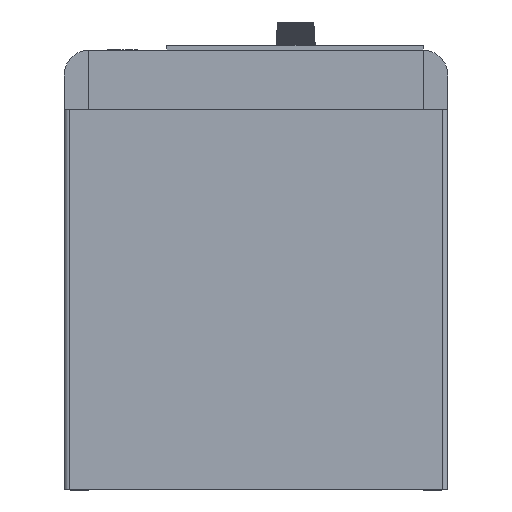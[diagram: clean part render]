
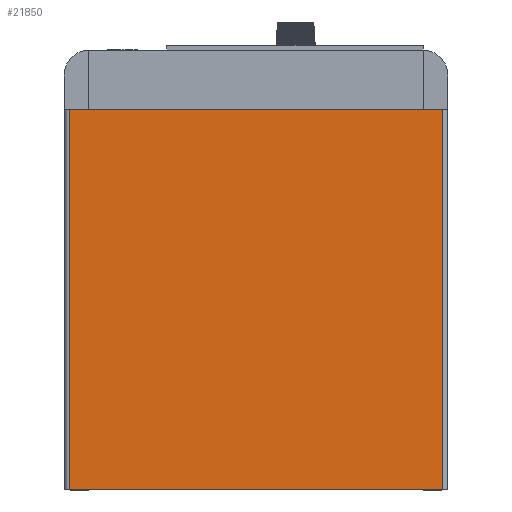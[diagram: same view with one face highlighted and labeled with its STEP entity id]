
A CAD part, front view. The second image highlights one B-rep face of the part: STEP entity #21850.
In plain terms, the highlighted planar face has unit normal (0, -1, 0).
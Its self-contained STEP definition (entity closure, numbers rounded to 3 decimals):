
#1080=PLANE('',#23109);
#1942=FACE_OUTER_BOUND('',#3182,.T.);
#3182=EDGE_LOOP('',(#15151,#15152,#15153,#15154));
#4545=LINE('',#29736,#6907);
#4546=LINE('',#29739,#6908);
#4547=LINE('',#29741,#6909);
#4548=LINE('',#29742,#6910);
#6907=VECTOR('',#24534,10.);
#6908=VECTOR('',#24537,10.);
#6909=VECTOR('',#24538,10.);
#6910=VECTOR('',#24539,10.);
#9640=VERTEX_POINT('',#29729);
#9643=VERTEX_POINT('',#29734);
#9644=VERTEX_POINT('',#29738);
#9645=VERTEX_POINT('',#29740);
#11850=EDGE_CURVE('',#9643,#9640,#4545,.T.);
#11851=EDGE_CURVE('',#9644,#9643,#4546,.T.);
#11852=EDGE_CURVE('',#9645,#9644,#4547,.T.);
#11853=EDGE_CURVE('',#9640,#9645,#4548,.T.);
#15151=ORIENTED_EDGE('',*,*,#11850,.F.);
#15152=ORIENTED_EDGE('',*,*,#11851,.F.);
#15153=ORIENTED_EDGE('',*,*,#11852,.F.);
#15154=ORIENTED_EDGE('',*,*,#11853,.F.);
#21850=ADVANCED_FACE('',(#1942),#1080,.T.);
#23109=AXIS2_PLACEMENT_3D('',#29737,#24535,#24536);
#24534=DIRECTION('',(0.,0.,-1.));
#24535=DIRECTION('center_axis',(0.,-1.,0.));
#24536=DIRECTION('ref_axis',(0.,0.,-1.));
#24537=DIRECTION('',(1.,0.,0.));
#24538=DIRECTION('',(0.,0.,1.));
#24539=DIRECTION('',(-1.,0.,0.));
#29729=CARTESIAN_POINT('',(75.5,0.,0.));
#29734=CARTESIAN_POINT('',(75.5,0.,153.6));
#29736=CARTESIAN_POINT('',(75.5,0.,115.2));
#29737=CARTESIAN_POINT('Origin',(0.,0.,153.6));
#29738=CARTESIAN_POINT('',(-75.5,0.,153.6));
#29739=CARTESIAN_POINT('',(0.,0.,153.6));
#29740=CARTESIAN_POINT('',(-75.5,0.,0.));
#29741=CARTESIAN_POINT('',(-75.5,0.,115.2));
#29742=CARTESIAN_POINT('',(0.,0.,0.));
